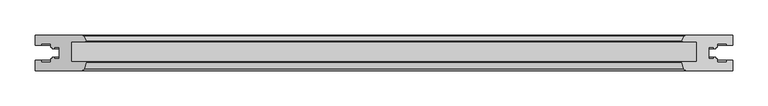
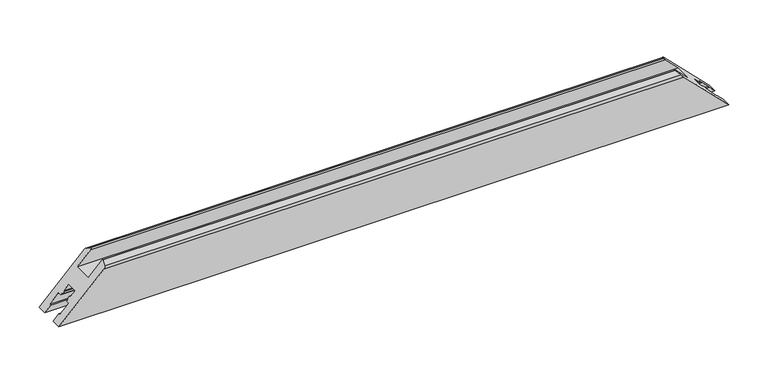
"""IFC4 building model written with IfcOpenShell, lengths in millimetres: proxy geometry, Weiku - Montante - Folha de correr 02.2.01.020 : Weiku - Montante - Folha de correr 02.2.01.020."""

from ifc_helpers import new_model, si_unit, frame, origin, place, context, project, spatial, ellipse_curve, source, transform, mapped, element, save
from ifc_brep_helpers import plane_surface, cylinder_surface, advanced_brep


def generic_models_e3183bf3(model_context):
    return source(origin(), model_context, "Body", "AdvancedBrep", [
        advanced_brep(
        [(494.5, -50.0, 0.0), (428.0004942, -50.0, 66.4995058), (-428.0004942, -50.0, 66.4995058), (-494.5, -50.0, 0.0), (-494.5, -35.5, 0.0), (494.5, -35.5, 0.0), (-494.5, 0.0, 0.0), (-426.9879875, 0.0, 67.5120125), (426.9879875, 0.0, 67.5120125), (494.5, 0.0, 0.0), (-425.1027168, -47.7764571, 69.3972832), (-422.5177981, -38.1294095, 71.9822019), (-423.0007611, -37.5, 71.4992389), (-443.5007611, -37.5, 50.9992389), (-443.5007611, -9.5, 50.9992389), (-423.7141895, -9.5, 70.7858105), (-422.5520406, -7.617411, 71.9479594), (-426.0940268, -0.5518546, 68.4059732), (-494.5, -14.5, 0.0), (-485.9, -14.5, 8.6), (-485.9, -11.7, 8.6), (-472.7, -11.7, 21.8), (-472.7, -16.9, 21.8), (-470.3524152, -16.9, 24.1475848), (-470.5273926, -18.9, 23.9726074), (-467.7, -18.9, 26.8), (-467.7, -16.9, 26.8), (-460.5, -16.9, 34.0), (-460.5, -33.1, 34.0), (-467.7, -33.1, 26.8), (-467.7, -31.1, 26.8), (-470.5273926, -31.1, 23.9726074), (-470.3524152, -33.1, 24.1475848), (-472.7, -33.1, 21.8), (-472.7, -38.3, 21.8), (-485.9, -38.3, 8.6), (-485.9, -35.5, 8.6), (485.9, -35.5, 8.6), (485.9, -38.3, 8.6), (472.7, -38.3, 21.8), (472.7, -33.1, 21.8), (470.3524152, -33.1, 24.1475848), (470.5273926, -31.1, 23.9726074), (467.7, -31.1, 26.8), (467.7, -33.1, 26.8), (460.5, -33.1, 34.0), (460.5, -16.9, 34.0), (467.7, -16.9, 26.8), (467.7, -18.9, 26.8), (470.5273926, -18.9, 23.9726074), (470.3524152, -16.9, 24.1475848), (472.7, -16.9, 21.8), (472.7, -11.7, 21.8), (485.9, -11.7, 8.6), (485.9, -14.5, 8.6), (494.5, -14.5, 0.0), (426.0940268, -0.5518546, 68.4059732), (422.5520406, -7.617411, 71.9479594), (423.7141895, -9.5, 70.7858105), (443.5007611, -9.5, 50.9992389), (443.5007611, -37.5, 50.9992389), (423.0007611, -37.5, 71.4992389), (422.5177981, -38.1294095, 71.9822019), (425.1027168, -47.7764571, 69.3972832)],
        [
            (0, 1),
            (1, 2),
            (2, 3),
            (3, 0),
            (3, 4),
            (4, 5),
            (5, 0),
            (6, 7),
            (7, 8),
            (8, 9),
            (9, 6),
            (2, 10, ellipse_curve(frame((-428.0004942, -47.0, 66.4995058), z_axis=(-0.707106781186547, 0.0, 0.7071067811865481), x_axis=(-0.7071067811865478, 0.0, -0.707106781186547)), 4.2426407, 3.0)),
            (10, 11),
            (11, 12, ellipse_curve(frame((-423.0007611, -38.0, 71.4992389), z_axis=(-0.707106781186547, 0.0, 0.7071067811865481), x_axis=(-0.7071067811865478, 0.0, -0.707106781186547)), 0.7071068, 0.5)),
            (12, 13),
            (13, 14),
            (14, 15),
            (15, 16, ellipse_curve(frame((-423.7141895, -8.2, 70.7858105), z_axis=(-0.707106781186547, 0.0, 0.7071067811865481), x_axis=(-0.7071067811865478, 0.0, -0.707106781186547)), 1.8384776, 1.3)),
            (16, 17),
            (17, 7, ellipse_curve(frame((-426.9879875, -1.0, 67.5120125), z_axis=(-0.707106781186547, 0.0, 0.7071067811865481), x_axis=(-0.7071067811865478, 0.0, -0.707106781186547)), 1.4142136, 1.0)),
            (6, 18),
            (18, 19),
            (19, 20),
            (20, 21),
            (21, 22),
            (22, 23),
            (23, 24),
            (24, 25),
            (25, 26),
            (26, 27),
            (27, 28),
            (28, 29),
            (29, 30),
            (30, 31),
            (31, 32),
            (32, 33),
            (33, 34),
            (34, 35),
            (35, 36),
            (36, 4),
            (5, 37),
            (37, 38),
            (38, 39),
            (39, 40),
            (40, 41),
            (41, 42),
            (42, 43),
            (43, 44),
            (44, 45),
            (45, 46),
            (46, 47),
            (47, 48),
            (48, 49),
            (49, 50),
            (50, 51),
            (51, 52),
            (52, 53),
            (53, 54),
            (54, 55),
            (55, 9),
            (8, 56, ellipse_curve(frame((426.9879875, -1.0, 67.5120125), z_axis=(0.7071067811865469, 0.0, 0.7071067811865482), x_axis=(-0.707106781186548, 0.0, 0.7071067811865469)), 1.4142136, 1.0)),
            (56, 57),
            (57, 58, ellipse_curve(frame((423.7141895, -8.2, 70.7858105), z_axis=(0.7071067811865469, 0.0, 0.7071067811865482), x_axis=(-0.707106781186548, 0.0, 0.7071067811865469)), 1.8384776, 1.3)),
            (58, 59),
            (59, 60),
            (60, 61),
            (61, 62, ellipse_curve(frame((423.0007611, -38.0, 71.4992389), z_axis=(0.7071067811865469, 0.0, 0.7071067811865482), x_axis=(-0.707106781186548, 0.0, 0.7071067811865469)), 0.7071068, 0.5)),
            (62, 63),
            (63, 1, ellipse_curve(frame((428.0004942, -47.0, 66.4995058), z_axis=(0.7071067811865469, 0.0, 0.7071067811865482), x_axis=(-0.707106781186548, 0.0, 0.7071067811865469)), 4.2426407, 3.0)),
            (17, 56),
            (16, 57),
            (15, 58),
            (14, 59),
            (13, 60),
            (12, 61),
            (11, 62),
            (10, 63),
            (36, 37),
            (35, 38),
            (34, 39),
            (33, 40),
            (32, 41),
            (31, 42),
            (30, 43),
            (29, 44),
            (28, 45),
            (27, 46),
            (26, 47),
            (25, 48),
            (24, 49),
            (23, 50),
            (22, 51),
            (21, 52),
            (20, 53),
            (19, 54),
            (18, 55),
        ],
        [
            plane_surface(frame((-494.5, -50.0, 66.4995058), z_axis=(0.0, -1.0, 0.0), x_axis=(1.0, 0.0, 0.0))),
            plane_surface(frame((-494.5, -50.0, 0.0), z_axis=(0.0, 0.0, -1.0), x_axis=(1.0, 0.0, 0.0))),
            plane_surface(frame((-494.5, 0.0, 0.0), z_axis=(0.0, 1.0, 0.0), x_axis=(1.0, 0.0, 0.0))),
            plane_surface(frame((-522.7842712, 0.0, -28.2842712), z_axis=(-0.707106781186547, 0.0, 0.7071067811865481), x_axis=(0.0, -1.0, 0.0))),
            plane_surface(frame((414.5, 0.0, 80.0), z_axis=(0.7071067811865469, 0.0, 0.7071067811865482), x_axis=(0.0, -1.0, 0.0))),
            cylinder_surface(frame((-494.5, -1.0, 67.5120125), z_axis=(-1.0, 0.0, 0.0), x_axis=(0.0, -1.0, 0.0)), 1.0),
            plane_surface(frame((-494.5, -0.5518546, 68.4059732), z_axis=(0.0, 0.4481453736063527, 0.8939606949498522), x_axis=(1.0, 0.0, 0.0))),
            cylinder_surface(frame((-494.5, -8.2, 70.7858105), z_axis=(-1.0, 0.0, 0.0), x_axis=(0.0, -1.0, 0.0)), 1.3),
            plane_surface(frame((-494.5, -9.5, 70.7858105), z_axis=(0.0, -1.0, 0.0), x_axis=(1.0, 0.0, 0.0))),
            plane_surface(frame((-494.5, -9.5, 50.9992389), z_axis=(0.0, 0.0, 1.0), x_axis=(1.0, 0.0, 0.0))),
            plane_surface(frame((-494.5, -37.5, 50.9992389), z_axis=(0.0, 1.0, 0.0), x_axis=(1.0, 0.0, 0.0))),
            cylinder_surface(frame((-494.5, -38.0, 71.4992389), z_axis=(-1.0, 0.0, 0.0), x_axis=(0.0, -1.0, 0.0)), 0.5),
            plane_surface(frame((-494.5, -38.1294095, 71.9822019), z_axis=(0.0, -0.2588190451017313, 0.9659258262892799), x_axis=(1.0, 0.0, 0.0))),
            cylinder_surface(frame((-494.5, -47.0, 66.4995058), z_axis=(-1.0, 0.0, 0.0), x_axis=(0.0, -1.0, 0.0)), 3.0),
            plane_surface(frame((-494.5, -35.5, 0.0), z_axis=(0.0, 1.0, 0.0), x_axis=(1.0, 0.0, 0.0))),
            plane_surface(frame((-494.5, -35.5, 8.6), z_axis=(0.0, 0.0, 1.0), x_axis=(1.0, 0.0, 0.0))),
            plane_surface(frame((-494.5, -38.3, 8.6), z_axis=(0.0, 1.0, 0.0), x_axis=(1.0, 0.0, 0.0))),
            plane_surface(frame((-494.5, -38.3, 21.8), z_axis=(0.0, 0.0, -1.0), x_axis=(1.0, 0.0, 0.0))),
            plane_surface(frame((-494.5, -33.1, 21.8), z_axis=(0.0, 1.0, 0.0), x_axis=(1.0, 0.0, 0.0))),
            plane_surface(frame((-494.5, -33.1, 24.1475848), z_axis=(0.0, -0.08715574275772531, -0.9961946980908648), x_axis=(1.0, 0.0, 0.0))),
            plane_surface(frame((-494.5, -31.1, 23.9726074), z_axis=(0.0, 1.0, 0.0), x_axis=(1.0, 0.0, 0.0))),
            plane_surface(frame((-494.5, -31.1, 26.8), z_axis=(0.0, 0.0, 1.0), x_axis=(1.0, 0.0, 0.0))),
            plane_surface(frame((-494.5, -33.1, 26.8), z_axis=(0.0, 1.0, 0.0), x_axis=(1.0, 0.0, 0.0))),
            plane_surface(frame((-494.5, -33.1, 34.0), z_axis=(0.0, 0.0, -1.0), x_axis=(1.0, 0.0, 0.0))),
            plane_surface(frame((-494.5, -16.9, 34.0), z_axis=(0.0, -1.0, 0.0), x_axis=(1.0, 0.0, 0.0))),
            plane_surface(frame((-494.5, -16.9, 26.8), z_axis=(0.0, 0.0, 1.0), x_axis=(1.0, 0.0, 0.0))),
            plane_surface(frame((-494.5, -18.9, 26.8), z_axis=(0.0, -1.0, 0.0), x_axis=(1.0, 0.0, 0.0))),
            plane_surface(frame((-494.5, -18.9, 23.9726074), z_axis=(0.0, 0.08715574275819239, -0.9961946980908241), x_axis=(1.0, 0.0, 0.0))),
            plane_surface(frame((-494.5, -16.9, 24.1475848), z_axis=(0.0, -1.0, 0.0), x_axis=(1.0, 0.0, 0.0))),
            plane_surface(frame((-494.5, -16.9, 21.8), z_axis=(0.0, 0.0, -1.0), x_axis=(1.0, 0.0, 0.0))),
            plane_surface(frame((-494.5, -11.7, 21.8), z_axis=(0.0, -1.0, 0.0), x_axis=(1.0, 0.0, 0.0))),
            plane_surface(frame((-494.5, -11.7, 8.6), z_axis=(0.0, 0.0, 1.0), x_axis=(1.0, 0.0, 0.0))),
            plane_surface(frame((-494.5, -14.5, 8.6), z_axis=(0.0, -1.0, 0.0), x_axis=(1.0, 0.0, 0.0))),
            plane_surface(frame((-494.5, -14.5, 0.0), z_axis=(0.0, 0.0, -1.0), x_axis=(1.0, 0.0, 0.0))),
        ],
        [
            (0, [[1, 2, 3, 4]]),
            (1, [[5, 6, 7, -4]]),
            (2, [[8, 9, 10, 11]]),
            (3, [[12, 13, 14, 15, 16, 17, 18, 19, 20, -8, 21, 22, 23, 24, 25, 26, 27, 28, 29, 30, 31, 32, 33, 34, 35, 36, 37, 38, 39, 40, -5, -3]]),
            (4, [[-7, 41, 42, 43, 44, 45, 46, 47, 48, 49, 50, 51, 52, 53, 54, 55, 56, 57, 58, 59, 60, -10, 61, 62, 63, 64, 65, 66, 67, 68, 69, -1]]),
            (5, [[70, -61, -9, -20]]),
            (6, [[71, -62, -70, -19]]),
            (7, [[72, -63, -71, -18]]),
            (8, [[73, -64, -72, -17]]),
            (9, [[74, -65, -73, -16]]),
            (10, [[75, -66, -74, -15]]),
            (11, [[76, -67, -75, -14]]),
            (12, [[77, -68, -76, -13]]),
            (13, [[-2, -69, -77, -12]]),
            (14, [[-40, 78, -41, -6]]),
            (15, [[79, -42, -78, -39]]),
            (16, [[80, -43, -79, -38]]),
            (17, [[81, -44, -80, -37]]),
            (18, [[82, -45, -81, -36]]),
            (19, [[83, -46, -82, -35]]),
            (20, [[84, -47, -83, -34]]),
            (21, [[85, -48, -84, -33]]),
            (22, [[86, -49, -85, -32]]),
            (23, [[87, -50, -86, -31]]),
            (24, [[88, -51, -87, -30]]),
            (25, [[89, -52, -88, -29]]),
            (26, [[90, -53, -89, -28]]),
            (27, [[91, -54, -90, -27]]),
            (28, [[92, -55, -91, -26]]),
            (29, [[93, -56, -92, -25]]),
            (30, [[94, -57, -93, -24]]),
            (31, [[95, -58, -94, -23]]),
            (32, [[-59, -95, -22, 96]]),
            (33, [[-60, -96, -21, -11]]),
        ],
    ),
    ])


if __name__ == "__main__":
    model = new_model("IFC4")
    model_context = context("Model", 3, world=origin())
    ifc_project = project(units=[si_unit("LENGTHUNIT", "METRE", prefix="MILLI")], contexts=[model_context])
    site = spatial("IfcSite", under=ifc_project)
    building = spatial("IfcBuilding", under=site)
    placement = place(None, origin())
    generic_models_shape = generic_models_e3183bf3(model_context)
    element("IfcBuildingElementProxy", 1, Name="Weiku - Montante - Folha de correr 02.2.01.020 : Weiku - Montante - Folha de correr 02.2.01.020", ObjectType="Weiku - Montante - Folha de correr 02.2.01.020 : Weiku - Montante - Folha de correr 02.2.01.020", at=placement, inside=building, context=model_context, shape_type="MappedRepresentation", body=[
        mapped(generic_models_shape, transform((0.0, 0.0, 0.0), x_axis=(1.0, 0.0, 0.0), y_axis=(0.0, 1.0, 0.0), z_axis=(0.0, 0.0, 1.0))),
    ])
    save(model, "model.ifc")
